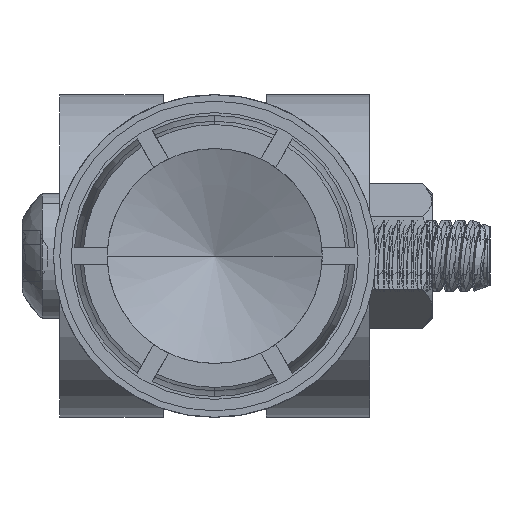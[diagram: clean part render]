
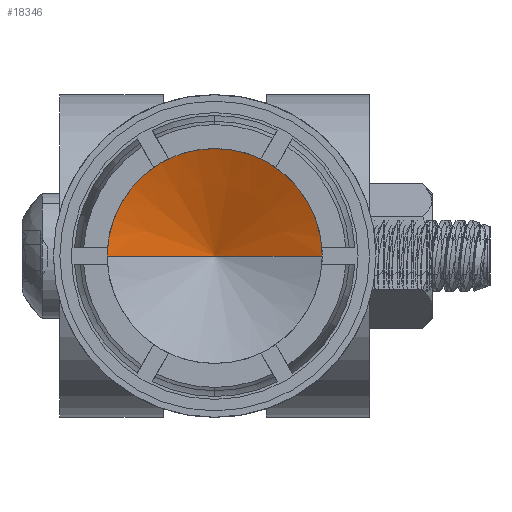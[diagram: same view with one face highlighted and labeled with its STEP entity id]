
A CAD part, left-side view. The second image highlights one B-rep face of the part: STEP entity #18346.
In plain terms, the highlighted conical face has half-angle 67.5 degrees and reference radius 2414.21 mm.
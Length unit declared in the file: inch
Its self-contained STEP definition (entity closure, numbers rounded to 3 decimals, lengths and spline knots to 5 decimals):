
#1177 = CONICAL_SURFACE ( 'NONE', #18692, 95.04778, 1.178 ) ;
#1741 = CARTESIAN_POINT ( 'NONE',  ( -0.1875, 0., 0. ) ) ;
#2046 = EDGE_LOOP ( 'NONE', ( #18520, #11632, #7359 ) ) ;
#2210 = CIRCLE ( 'NONE', #5884, 0.375 ) ;
#2536 = LINE ( 'NONE', #12613, #11250 ) ;
#3425 = DIRECTION ( 'NONE',  ( 0., 1., 0. ) ) ;
#5237 = EDGE_CURVE ( 'NONE', #8030, #8034, #2536, .T. ) ;
#5650 = LINE ( 'NONE', #8343, #9227 ) ;
#5884 = AXIS2_PLACEMENT_3D ( 'NONE', #1741, #12641, #3425 ) ;
#6403 = FACE_OUTER_BOUND ( 'NONE', #2046, .T. ) ;
#6815 = DIRECTION ( 'NONE',  ( -0.383, 0.924, 0. ) ) ;
#7359 = ORIENTED_EDGE ( 'NONE', *, *, #17127, .F. ) ;
#8030 = VERTEX_POINT ( 'NONE', #10097 ) ;
#8034 = VERTEX_POINT ( 'NONE', #19533 ) ;
#8343 = CARTESIAN_POINT ( 'NONE',  ( -0.03217, 0., 0. ) ) ;
#8694 = CARTESIAN_POINT ( 'NONE',  ( -39.40225, 0., 0. ) ) ;
#9227 = VECTOR ( 'NONE', #6815, 39.37008 ) ;
#10097 = CARTESIAN_POINT ( 'NONE',  ( -0.03217, 0., 0. ) ) ;
#10850 = EDGE_CURVE ( 'NONE', #8030, #18702, #5650, .T. ) ;
#11250 = VECTOR ( 'NONE', #11702, 39.37008 ) ;
#11632 = ORIENTED_EDGE ( 'NONE', *, *, #5237, .T. ) ;
#11702 = DIRECTION ( 'NONE',  ( -0.383, -0.924, 0. ) ) ;
#12613 = CARTESIAN_POINT ( 'NONE',  ( -0.03217, 0., 0. ) ) ;
#12641 = DIRECTION ( 'NONE',  ( 1., 0., 0. ) ) ;
#17051 = CARTESIAN_POINT ( 'NONE',  ( -0.1875, 0.375, 0. ) ) ;
#17127 = EDGE_CURVE ( 'NONE', #18702, #8034, #2210, .T. ) ;
#18033 = DIRECTION ( 'NONE',  ( 0., -1., 0. ) ) ;
#18346 = ADVANCED_FACE ( 'NONE', ( #6403 ), #1177, .F. ) ;
#18520 = ORIENTED_EDGE ( 'NONE', *, *, #10850, .F. ) ;
#18692 = AXIS2_PLACEMENT_3D ( 'NONE', #8694, #19681, #18033 ) ;
#18702 = VERTEX_POINT ( 'NONE', #17051 ) ;
#19533 = CARTESIAN_POINT ( 'NONE',  ( -0.1875, -0.375, 0. ) ) ;
#19681 = DIRECTION ( 'NONE',  ( -1., 0., 0. ) ) ;
